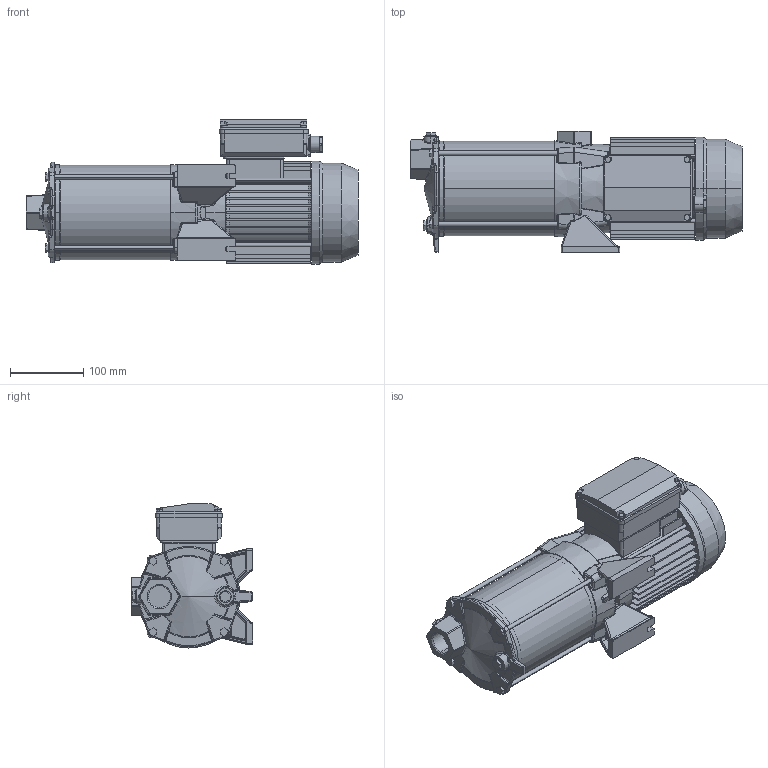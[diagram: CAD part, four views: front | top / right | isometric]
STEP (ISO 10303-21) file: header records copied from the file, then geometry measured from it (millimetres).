
FILE_DESCRIPTION((''),'2;1');
FILE_NAME('COMPACT_AM-12_ASM','2019-09-25T',('rosa'),('"Ebara Pumps Europe +39.444.706811"'),'PRO/ENGINEER BY PARAMETRIC TECHNOLOGY CORPORATION, 2017170','PRO/ENGINEER BY PARAMETRIC TECHNOLOGY CORPORATION, 2017170','');
FILE_SCHEMA(('AUTOMOTIVE_DESIGN { 1 0 10303 214 1 1 1 1 }'));
Length unit declared in the file: millimetre
Products named in the file (7): 80585; MEC_71_PACCO_90_MONOFASE; COPRIMORS_MEC63_E3_SENZA_INT; 2710X_L-150_8; 20998; 40012_M6X190; COMPACT_AM-12_ASM
Assembly tree (9 placements, depth 2):
  COMPACT_AM-12_ASM
    80585
    MEC_71_PACCO_90_MONOFASE
    COPRIMORS_MEC63_E3_SENZA_INT
    2710X_L-150_8
    20998
    40012_M6X190  x4
Bounding box: 453.3 x 166 x 196.8 mm (x, y, z)
Volume: 3219767.2 mm3; surface area: 578373.5 mm2
Topology: 9 solids, 9 shells, 1375 faces, 3265 edges, 1938 vertices
Faces by surface type: plane 471, cylinder 379, bspline 324, cone 100, torus 64, sphere 37
Entity records: 64554 total; most frequent: CARTESIAN_POINT 25043, ORIENTED_EDGE 6382, DIRECTION 5552, PRESENTATION_STYLE_ASSIGNMENT 3198, STYLED_ITEM 3197, CURVE_STYLE 3191, EDGE_CURVE 3191, AXIS2_PLACEMENT_3D 2158
